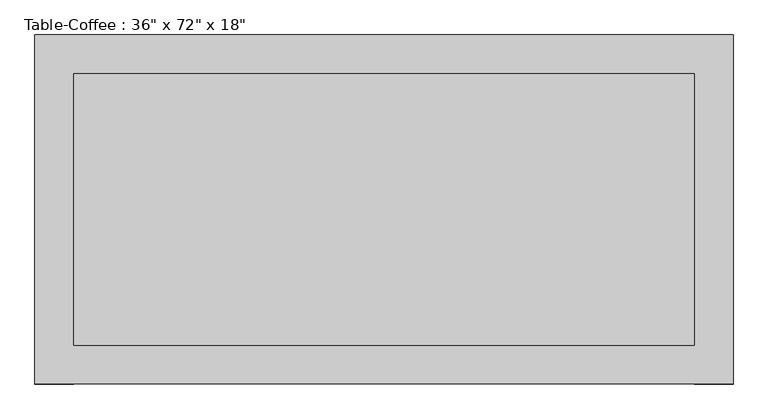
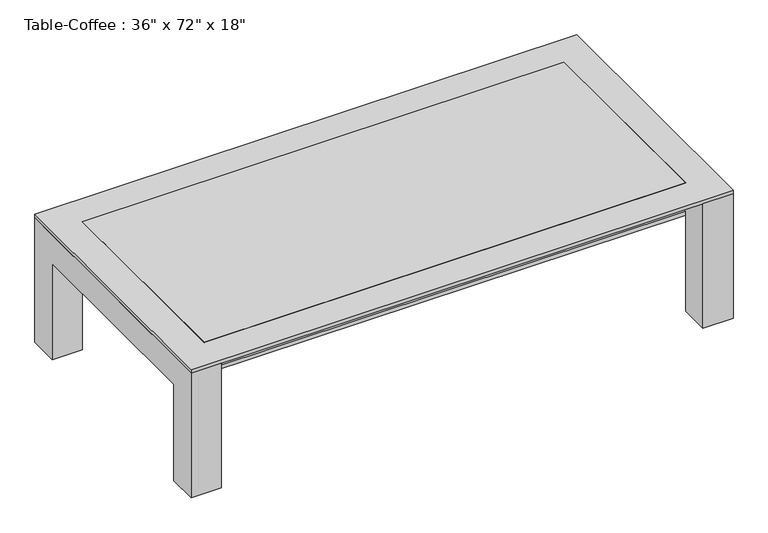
"""IFC4 building model written with IfcOpenShell, lengths in millimetres: furniture geometry."""

from ifc_helpers import new_model, si_unit, frame, origin, place, context, project, spatial, polyline, outline, extrude, source, transform, mapped, element, save


def furniture_cd93a443(model_context):
    return source(origin(), model_context, "Body", "SweptSolid", [
        extrude(outline(polyline([(831.0657667, 450.8110778), (831.0657667, -260.3889222), (-794.5342333, -260.3889222), (-794.5342333, 450.8110778), (831.0657667, 450.8110778)])), frame((0.0, 0.0, 342.9), z_axis=(0.0, 0.0, 1.0), x_axis=(1.0, 0.0, 0.0)), (0.0, 0.0, 1.0), 12.7),
        extrude(outline(polyline([(552.4110778, 0.0), (450.8110778, 0.0), (450.8110778, 342.9), (-260.3889222, 342.9), (-260.3889222, 0.0), (-361.9889222, 0.0), (-361.9889222, 444.5), (552.4110778, 444.5), (552.4110778, 0.0)])), frame((831.0657667, 0.0, 0.0), z_axis=(1.0, 0.0, 0.0), x_axis=(0.0, 1.0, 0.0)), (0.0, 0.0, 1.0), 101.6),
        extrude(outline(polyline([(552.4110778, 444.5), (552.4110778, 0.0), (450.8110778, 0.0), (450.8110778, 342.9), (-260.3889222, 342.9), (-260.3889222, 0.0), (-361.9889222, 0.0), (-361.9889222, 444.5), (552.4110778, 444.5)])), frame((-896.1342333, 0.0, 0.0), z_axis=(1.0, 0.0, 0.0), x_axis=(0.0, 1.0, 0.0)), (0.0, 0.0, 1.0), 101.6),
        extrude(outline(polyline([(831.0657667, 450.8110778), (831.0657667, -260.3889222), (-794.5342333, -260.3889222), (-794.5342333, 450.8110778), (831.0657667, 450.8110778)])), frame((0.0, 0.0, 444.5), z_axis=(0.0, 0.0, 1.0), x_axis=(1.0, 0.0, 0.0)), (0.0, 0.0, 1.0), 12.7),
        extrude(outline(polyline([(932.6657667, 552.4110778), (932.6657667, -361.9889222), (-896.1342333, -361.9889222), (-896.1342333, 552.4110778), (932.6657667, 552.4110778)]), holes=[polyline([(831.0657667, 450.8110778), (-794.5342333, 450.8110778), (-794.5342333, -260.3889222), (831.0657667, -260.3889222), (831.0657667, 450.8110778)])]), frame((0.0, 0.0, 444.5), z_axis=(0.0, 0.0, 1.0), x_axis=(1.0, 0.0, 0.0)), (0.0, 0.0, 1.0), 12.7),
    ])


if __name__ == "__main__":
    model = new_model("IFC4")
    model_context = context("Model", 3, world=origin())
    ifc_project = project(units=[si_unit("LENGTHUNIT", "METRE", prefix="MILLI")], contexts=[model_context])
    site = spatial("IfcSite", under=ifc_project)
    building = spatial("IfcBuilding", under=site)
    placement = place(None, origin())
    furniture_shape = furniture_cd93a443(model_context)
    element("IfcFurniture", 1, ObjectType="Table-Coffee : 36\" x 72\" x 18\"", at=placement, inside=building, context=model_context, shape_type="MappedRepresentation", body=[
        mapped(furniture_shape, transform((0.0, 0.0, 0.0), x_axis=(1.0, 0.0, 0.0), y_axis=(0.0, 1.0, 0.0), z_axis=(0.0, 0.0, 1.0))),
    ])
    save(model, "model.ifc")
